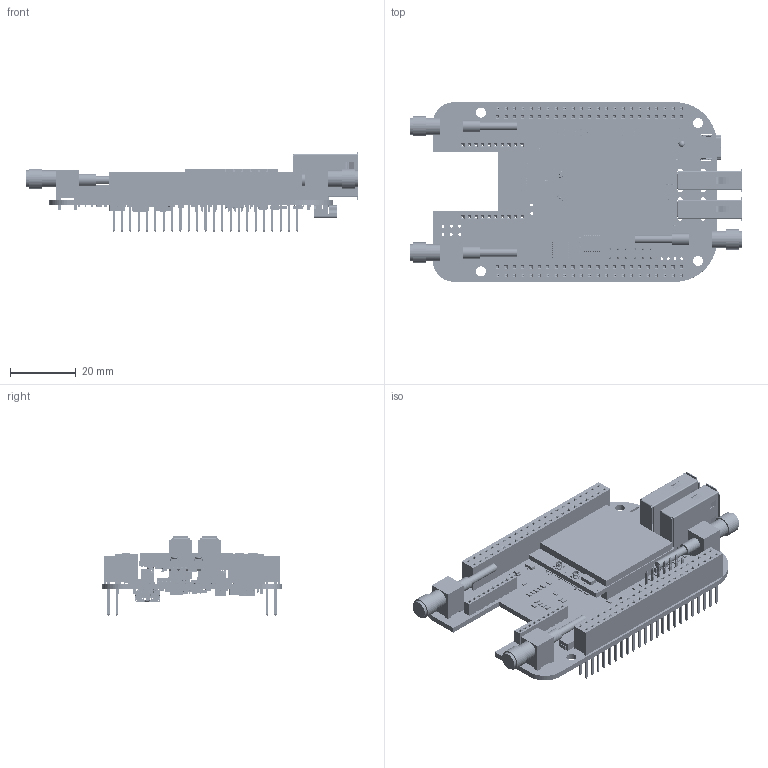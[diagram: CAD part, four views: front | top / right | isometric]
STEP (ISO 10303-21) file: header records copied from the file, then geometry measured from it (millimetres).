
FILE_DESCRIPTION(('Open CASCADE Model'),'2;1');
FILE_NAME('Open CASCADE Shape Model','2016-06-14T15:54:01',('Author'),( 'Open CASCADE'),'Open CASCADE STEP processor 6.5','Open CASCADE 6.5' ,'Unknown');
FILE_SCHEMA(('AUTOMOTIVE_DESIGN { 1 0 10303 214 1 1 1 1 }'));
Length unit declared in the file: millimetre
Products named in the file (347): PCB; Board; R63; RES0603; Q1; DBZ0003A; BODY_MF03A; LEAD_MF03A; ANT3; 1158342000; Extruded; 1032203928; Cylinder; 1158336880; 1158337392; 1032204288; 1032203808; 1032203688; C53; U8; FAN8303_BODYpin; 1007374192; 1032192048; U11; 0673298020; 1007374320; U10; BBBC2; 1007371632; R47; R46; R45; R44; R43; R42; R41; R39; R30; R28; R25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
Assembly tree (729 placements, depth 4):
  PCB
    Board
    R63
      RES0603
    Q1
      DBZ0003A
        BODY_MF03A
        LEAD_MF03A  x3
    ANT3
      1158342000
        Extruded
      1032203928
        Cylinder
      1158336880  x4
        Extruded
      1158337392  x4
        Extruded
      1032204288
        Cylinder
      1032203808
        Cylinder
      1032203688
        Cylinder
    C53
      RES0603
    U8
      FAN8303_BODYpin  x8
        Extruded
      1007374192
        Extruded
      1032192048
        Cylinder
    U11
      0673298020  x8
        Extruded
      1007374320
        Extruded
    U10
      BBBC2  x16
        Extruded
      1007371632
        Extruded
    R47
      RES0603
    R46
      RES0603
    R45
      RES0603
    R44
      RES0603
    R43
      RES0603
    R42
      RES0603
    R41
      RES0603
    R39
      RES0603
    R30
      RES0603
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Bounding box: 100.99 x 54.61 x 24.44 mm (x, y, z)
Volume: 16251.6 mm3; surface area: 39890.1 mm2
Topology: 814 solids, 4698 shells, 18232 faces, 54261 edges, 41701 vertices
Faces by surface type: plane 10618, bspline 4660, cylinder 2647, revolution 276, cone 30, sphere 1
Full cylindrical faces by diameter (mm): 0.762 x1, 0.8 x22, 0.813 x24, 0.889 x8, 0.9 x8, 0.965 x12, 1.016 x92, 1.651 x20, 2.413 x3, 3.048 x4, 3.683 x3, 5.283 x3, 6.248 x3
Entity records: 530230 total; most frequent: CARTESIAN_POINT 150239, DIRECTION 53312, LINE 36882, VECTOR 36882, ORIENTED_EDGE 33944, PCURVE 33944, DEFINITIONAL_REPRESENTATION 33944, EDGE_CURVE 21964
